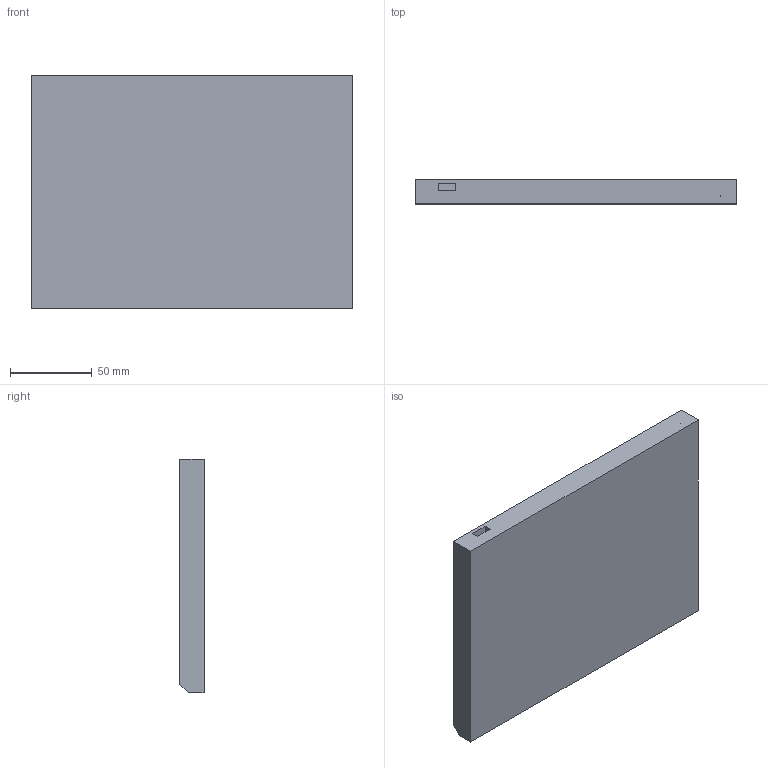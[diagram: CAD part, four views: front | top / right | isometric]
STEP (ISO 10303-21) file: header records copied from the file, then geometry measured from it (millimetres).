
FILE_DESCRIPTION(/* description */ (''),/* implementation_level */ '2;1');
FILE_NAME(/* name */ 'case bottom - RIGHT.step',/* time_stamp */ '2026-03-03T07:28:52Z',/* author */ (''),/* organization */ (''),/* preprocessor_version */ 'ST-DEVELOPER v20.1',/* originating_system */ 'Autodesk Translation Framework v14.24.0.0',/* authorisation */ '');
FILE_SCHEMA (('AUTOMOTIVE_DESIGN { 1 0 10303 214 3 1 1 }'));
Length unit declared in the file: millimetre
Products named in the file (1): case bottom
Bounding box: 196.35 x 14.75 x 142.57 mm (x, y, z)
Volume: 86780.5 mm3; surface area: 70744.3 mm2
Topology: 1 solids, 2 shells, 33 faces, 78 edges, 51 vertices
Faces by surface type: plane 31, cylinder 2
Full cylindrical faces by diameter (mm): 3.4 x2
Entity records: 974 total; most frequent: CARTESIAN_POINT 163, ORIENTED_EDGE 156, DIRECTION 150, EDGE_CURVE 78, LINE 74, VECTOR 74, VERTEX_POINT 51, AXIS2_PLACEMENT_3D 38
